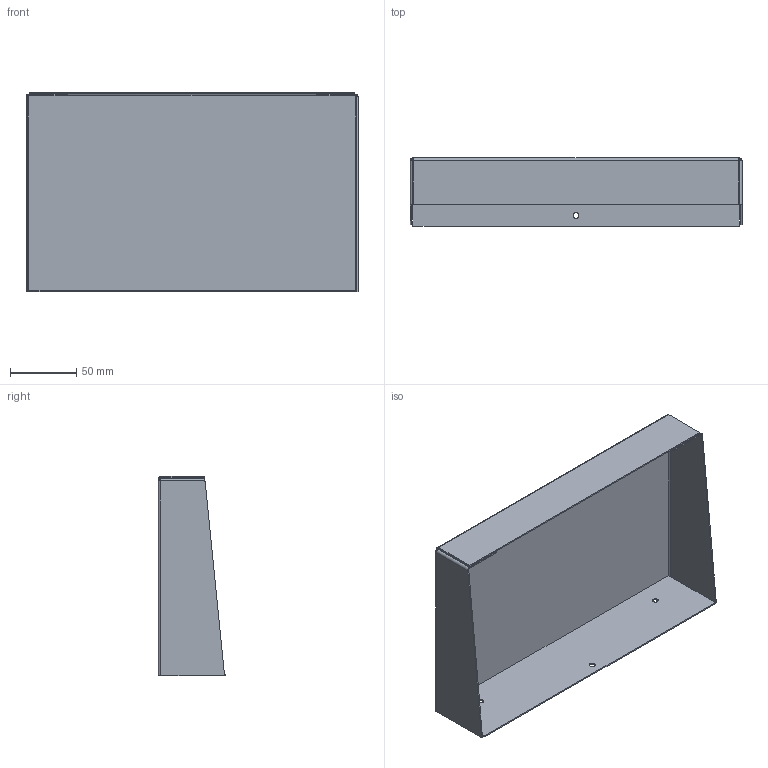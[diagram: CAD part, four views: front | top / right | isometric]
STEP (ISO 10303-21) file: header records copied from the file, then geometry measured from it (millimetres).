
FILE_DESCRIPTION (( 'STEP AP214' ), '1' );
FILE_NAME ('TSL.11.STEP', '2024-10-24T07:36:46', ( '' ), ( '' ), 'SwSTEP 2.0', 'SolidWorks 2022', '' );
FILE_SCHEMA (( 'AUTOMOTIVE_DESIGN' ));
Length unit declared in the file: millimetre
Products named in the file (1): TSL.11
Bounding box: 250 x 51 x 150 mm (x, y, z)
Volume: 72015.1 mm3; surface area: 145821.7 mm2
Topology: 2 solids, 2 shells, 68 faces, 152 edges, 88 vertices
Faces by surface type: plane 50, cylinder 16, bspline 2
Entity records: 1941 total; most frequent: CARTESIAN_POINT 397, DIRECTION 304, ORIENTED_EDGE 304, EDGE_CURVE 152, VECTOR 114, LINE 114, AXIS2_PLACEMENT_3D 95, VERTEX_POINT 88
